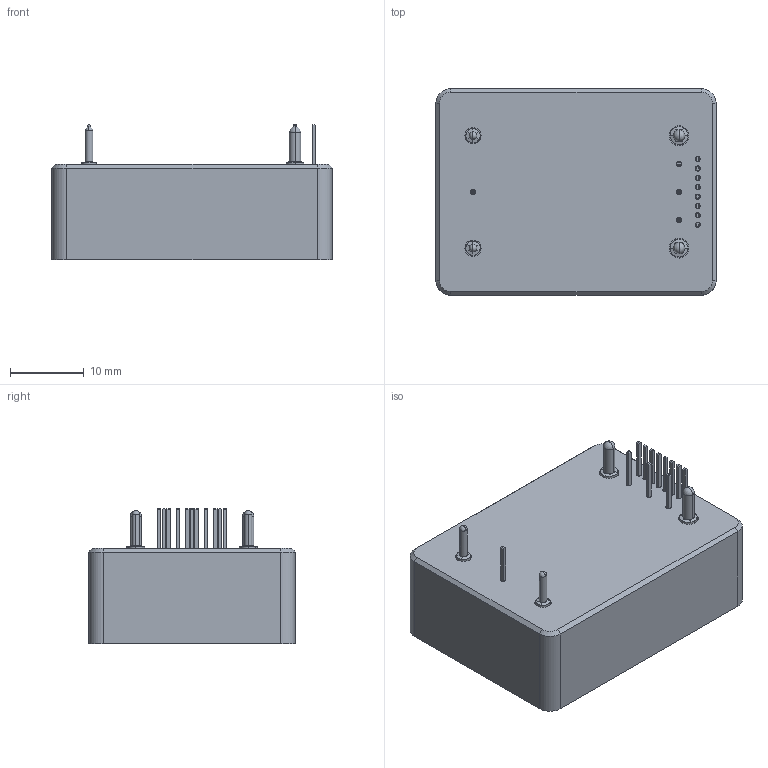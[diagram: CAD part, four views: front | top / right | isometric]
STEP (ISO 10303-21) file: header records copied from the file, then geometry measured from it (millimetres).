
FILE_DESCRIPTION (( 'STEP AP203' ), '1' );
FILE_NAME ('KMNB01.STEP', '2023-08-12T14:01:38', ( '' ), ( '' ), 'SwSTEP 2.0', 'SolidWorks 2021', '' );
FILE_SCHEMA (( 'CONFIG_CONTROL_DESIGN' ));
Length unit declared in the file: millimetre
Products named in the file (1): KMNB01
Bounding box: 38 x 28 x 18.3 mm (x, y, z)
Surface area: 10565.5 mm2 (no closed solid volume)
Topology: 0 solids, 11 shells, 1048 faces, 2994 edges, 1927 vertices
Faces by surface type: plane 796, cylinder 204, cone 36, sphere 8, torus 4
Entity records: 36336 total; most frequent: CARTESIAN_POINT 12876, ORIENTED_EDGE 5772, DIRECTION 3393, EDGE_CURVE 2982, B_SPLINE_CURVE_WITH_KNOTS 2090, VERTEX_POINT 1925, AXIS2_PLACEMENT_3D 1484, EDGE_LOOP 1171
